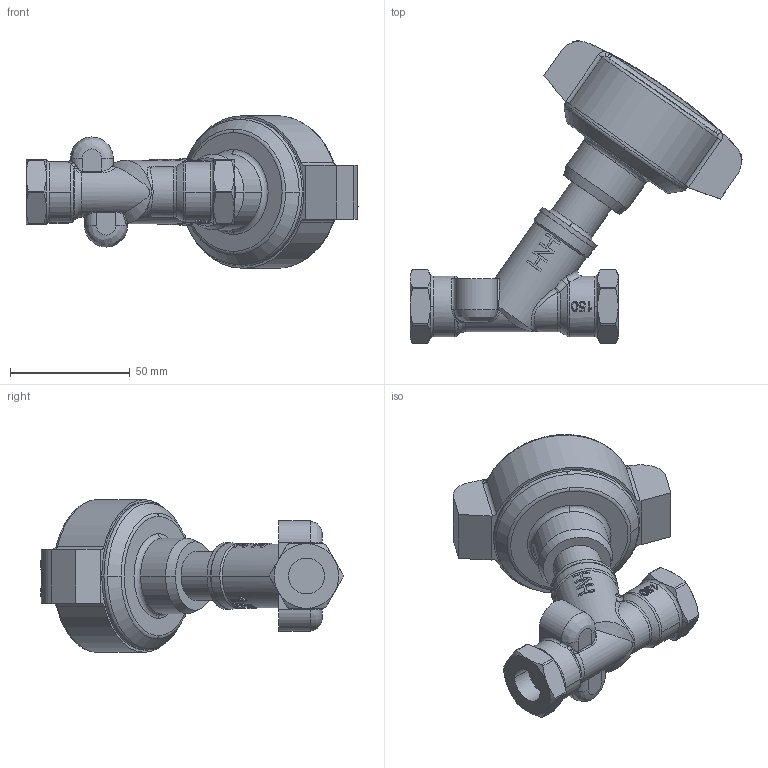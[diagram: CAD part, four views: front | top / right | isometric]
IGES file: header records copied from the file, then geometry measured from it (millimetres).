
Global section: file name: No Iges File Name specified; native system: AutoDesk Inventor R12.0; preprocessor: AutoDesk Inventor Iges Exporter R12.0; date: 20110307.104820; units: millimetre
Bounding box: 138.78 x 126.41 x 63.85 mm (x, y, z)
Volume: 198843.8 mm3; surface area: 29947.6 mm2
Topology: 1 solids, 1 shells, 632 faces, 1670 edges, 1092 vertices
Faces by surface type: plane 281, bspline 224, cylinder 76, cone 25, revolution 18, torus 8
